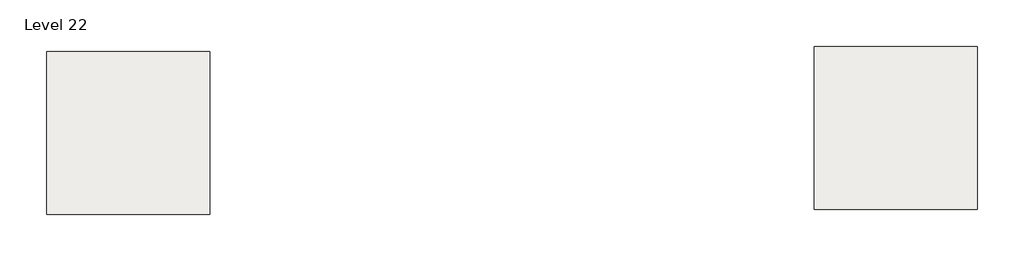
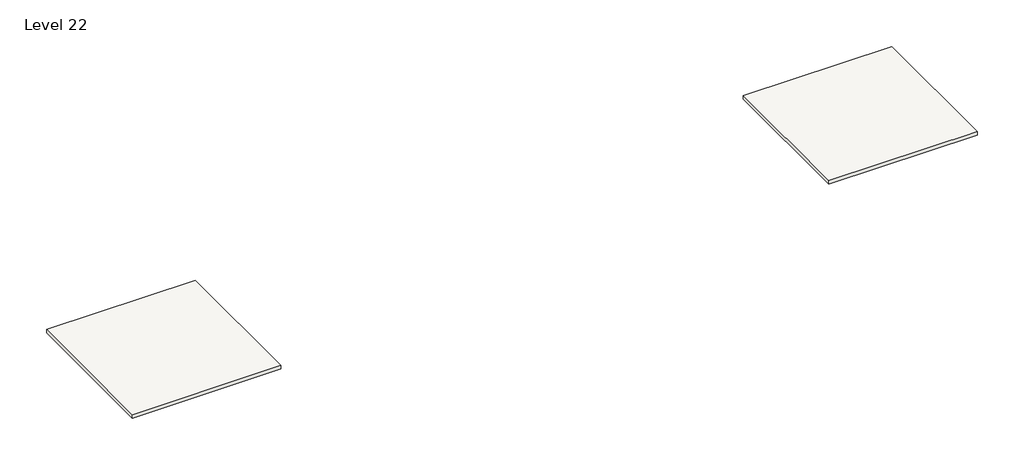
# One storey: 2 slabs.
"""IFC4 building model written with IfcOpenShell, lengths in millimetres."""

from ifc_helpers import new_model, si_unit, frame, origin, place, context, project, spatial, polyline, outline, extrude, element, save

model = new_model("IFC4")

# Units and contexts
model_context = context("Model", 3, world=origin())
ifc_project = project(units=[si_unit("LENGTHUNIT", "METRE", prefix="MILLI")], contexts=[model_context])

# Site, building, storey
site = spatial("IfcSite", under=ifc_project)
building = spatial("IfcBuilding", under=site)
storey = spatial("IfcBuildingStorey", under=building, Name="Level 22", Elevation=64008.0)

# Slabs
placement = place(None, origin())
element("IfcSlab", 1, ObjectType="Generic - 12\"", at=placement, inside=storey, context=model_context, shape_type="SweptSolid", body=[
    extrude(outline(polyline([(-19315.4161695, 7973.9495511), (-7123.4161695, 7973.9495511), (-7123.4161695, -4218.0504489), (-19315.4161695, -4218.0504489), (-19315.4161695, 7973.9495511)])), frame((0.0, 0.0, 63703.2), z_axis=(0.0, 0.0, 1.0), x_axis=(1.0, 0.0, 0.0)), (0.0, 0.0, 1.0), 304.8),
])
element("IfcSlab", 2, ObjectType="Generic - 12\"", at=placement, inside=storey, context=model_context, shape_type="SweptSolid", body=[
    extrude(outline(polyline([(38118.2903978, 8351.0904402), (50310.2903978, 8351.0904402), (50310.2903978, -3840.9095598), (38118.2903978, -3840.9095598), (38118.2903978, 8351.0904402)])), frame((0.0, 0.0, 63703.2), z_axis=(0.0, 0.0, 1.0), x_axis=(1.0, 0.0, 0.0)), (0.0, 0.0, 1.0), 304.8),
])

save(model, "model.ifc")
